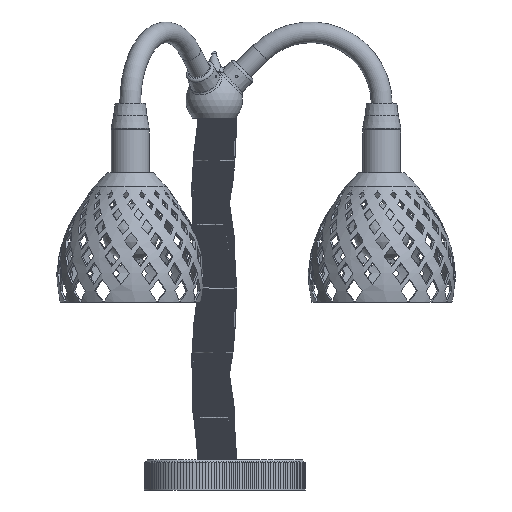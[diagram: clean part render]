
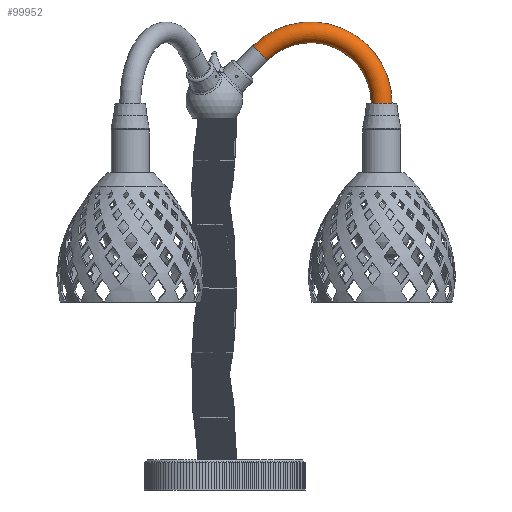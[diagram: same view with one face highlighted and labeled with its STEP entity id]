
A CAD part, front view. The second image highlights one B-rep face of the part: STEP entity #99952.
In plain terms, the highlighted toroidal (fillet/blend) face has major radius 75 mm and minor radius 11 mm.
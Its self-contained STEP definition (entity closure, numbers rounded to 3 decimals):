
#99836 = VERTEX_POINT('',#99837);
#99837 = CARTESIAN_POINT('',(48.79,11.,460.79));
#99844 = CYLINDRICAL_SURFACE('',#99845,11.);
#99845 = AXIS2_PLACEMENT_3D('',#99846,#99847,#99848);
#99846 = CARTESIAN_POINT('',(16.971,0.,428.971));
#99847 = DIRECTION('',(0.707,0.,0.707));
#99848 = DIRECTION('',(0.,1.,0.));
#99863 = EDGE_CURVE('',#99836,#99836,#99864,.T.);
#99864 = SURFACE_CURVE('',#99865,(#99870,#99877),.PCURVE_S1.);
#99865 = CIRCLE('',#99866,11.);
#99866 = AXIS2_PLACEMENT_3D('',#99867,#99868,#99869);
#99867 = CARTESIAN_POINT('',(48.79,0.,460.79));
#99868 = DIRECTION('',(0.707,-0.,0.707));
#99869 = DIRECTION('',(0.,1.,0.));
#99870 = PCURVE('',#99844,#99871);
#99871 = DEFINITIONAL_REPRESENTATION('',(#99872),#99876);
#99872 = LINE('',#99873,#99874);
#99873 = CARTESIAN_POINT('',(0.,45.));
#99874 = VECTOR('',#99875,1.);
#99875 = DIRECTION('',(1.,0.));
#99876 = ( GEOMETRIC_REPRESENTATION_CONTEXT(2) 
PARAMETRIC_REPRESENTATION_CONTEXT() REPRESENTATION_CONTEXT('2D SPACE',''
  ) );
#99877 = PCURVE('',#99878,#99883);
#99878 = TOROIDAL_SURFACE('',#99879,75.,11.);
#99879 = AXIS2_PLACEMENT_3D('',#99880,#99881,#99882);
#99880 = CARTESIAN_POINT('',(101.823,0.,407.757));
#99881 = DIRECTION('',(0.,1.,0.));
#99882 = DIRECTION('',(-0.707,0.,0.707));
#99883 = DEFINITIONAL_REPRESENTATION('',(#99884),#99888);
#99884 = LINE('',#99885,#99886);
#99885 = CARTESIAN_POINT('',(0.,7.854));
#99886 = VECTOR('',#99887,1.);
#99887 = DIRECTION('',(-0.,-1.));
#99888 = ( GEOMETRIC_REPRESENTATION_CONTEXT(2) 
PARAMETRIC_REPRESENTATION_CONTEXT() REPRESENTATION_CONTEXT('2D SPACE',''
  ) );
#99952 = ADVANCED_FACE('',(#99953),#99878,.T.);
#99953 = FACE_BOUND('',#99954,.T.);
#99954 = EDGE_LOOP('',(#99955,#99979,#100006,#100007));
#99955 = ORIENTED_EDGE('',*,*,#99956,.T.);
#99956 = EDGE_CURVE('',#99836,#99957,#99959,.T.);
#99957 = VERTEX_POINT('',#99958);
#99958 = CARTESIAN_POINT('',(176.823,11.,407.757));
#99959 = SEAM_CURVE('',#99960,(#99965,#99972),.PCURVE_S1.);
#99960 = CIRCLE('',#99961,75.);
#99961 = AXIS2_PLACEMENT_3D('',#99962,#99963,#99964);
#99962 = CARTESIAN_POINT('',(101.823,11.,407.757));
#99963 = DIRECTION('',(0.,1.,-0.));
#99964 = DIRECTION('',(-0.707,0.,0.707));
#99965 = PCURVE('',#99878,#99966);
#99966 = DEFINITIONAL_REPRESENTATION('',(#99967),#99971);
#99967 = LINE('',#99968,#99969);
#99968 = CARTESIAN_POINT('',(0.,1.571));
#99969 = VECTOR('',#99970,1.);
#99970 = DIRECTION('',(1.,0.));
#99971 = ( GEOMETRIC_REPRESENTATION_CONTEXT(2) 
PARAMETRIC_REPRESENTATION_CONTEXT() REPRESENTATION_CONTEXT('2D SPACE',''
  ) );
#99972 = PCURVE('',#99878,#99973);
#99973 = DEFINITIONAL_REPRESENTATION('',(#99974),#99978);
#99974 = LINE('',#99975,#99976);
#99975 = CARTESIAN_POINT('',(0.,7.854));
#99976 = VECTOR('',#99977,1.);
#99977 = DIRECTION('',(1.,0.));
#99978 = ( GEOMETRIC_REPRESENTATION_CONTEXT(2) 
PARAMETRIC_REPRESENTATION_CONTEXT() REPRESENTATION_CONTEXT('2D SPACE',''
  ) );
#99979 = ORIENTED_EDGE('',*,*,#99980,.T.);
#99980 = EDGE_CURVE('',#99957,#99957,#99981,.T.);
#99981 = SURFACE_CURVE('',#99982,(#99987,#99994),.PCURVE_S1.);
#99982 = CIRCLE('',#99983,11.);
#99983 = AXIS2_PLACEMENT_3D('',#99984,#99985,#99986);
#99984 = CARTESIAN_POINT('',(176.823,0.,407.757));
#99985 = DIRECTION('',(0.,0.,1.));
#99986 = DIRECTION('',(1.,0.,0.));
#99987 = PCURVE('',#99878,#99988);
#99988 = DEFINITIONAL_REPRESENTATION('',(#99989),#99993);
#99989 = LINE('',#99990,#99991);
#99990 = CARTESIAN_POINT('',(2.356,0.));
#99991 = VECTOR('',#99992,1.);
#99992 = DIRECTION('',(0.,1.));
#99993 = ( GEOMETRIC_REPRESENTATION_CONTEXT(2) 
PARAMETRIC_REPRESENTATION_CONTEXT() REPRESENTATION_CONTEXT('2D SPACE',''
  ) );
#99994 = PCURVE('',#99995,#100000);
#99995 = CYLINDRICAL_SURFACE('',#99996,11.);
#99996 = AXIS2_PLACEMENT_3D('',#99997,#99998,#99999);
#99997 = CARTESIAN_POINT('',(176.823,0.,407.757));
#99998 = DIRECTION('',(0.,0.,-1.));
#99999 = DIRECTION('',(0.,1.,0.));
#100000 = DEFINITIONAL_REPRESENTATION('',(#100001),#100005);
#100001 = LINE('',#100002,#100003);
#100002 = CARTESIAN_POINT('',(7.854,0.));
#100003 = VECTOR('',#100004,1.);
#100004 = DIRECTION('',(-1.,-0.));
#100005 = ( GEOMETRIC_REPRESENTATION_CONTEXT(2) 
PARAMETRIC_REPRESENTATION_CONTEXT() REPRESENTATION_CONTEXT('2D SPACE',''
  ) );
#100006 = ORIENTED_EDGE('',*,*,#99956,.F.);
#100007 = ORIENTED_EDGE('',*,*,#99863,.T.);
